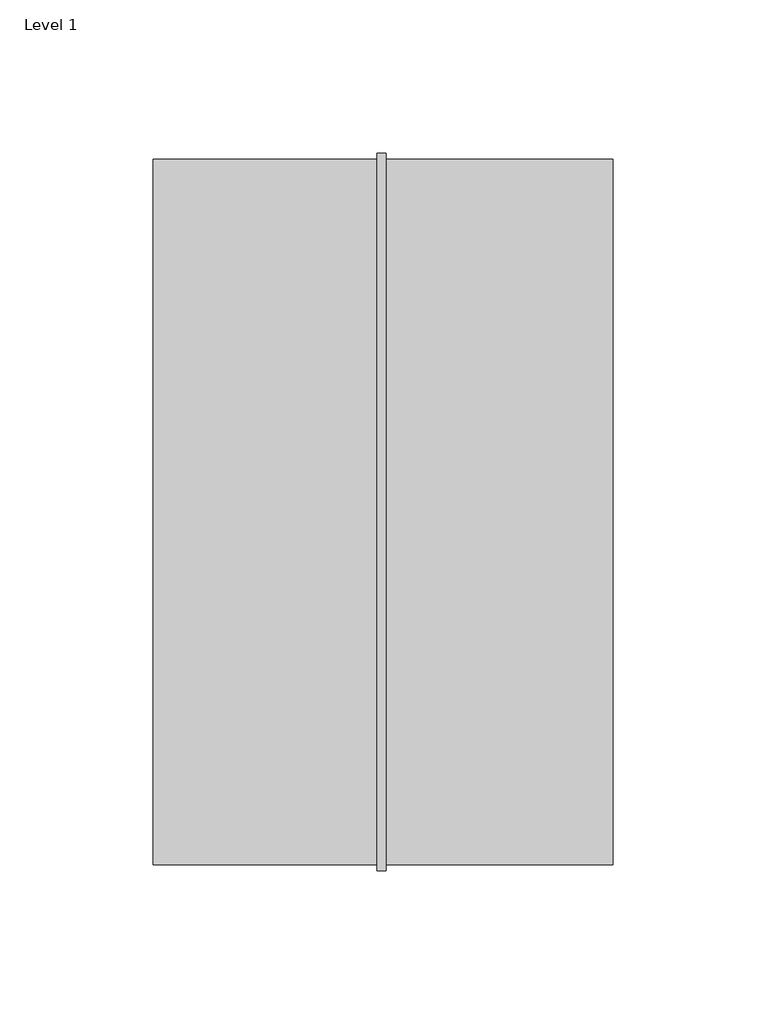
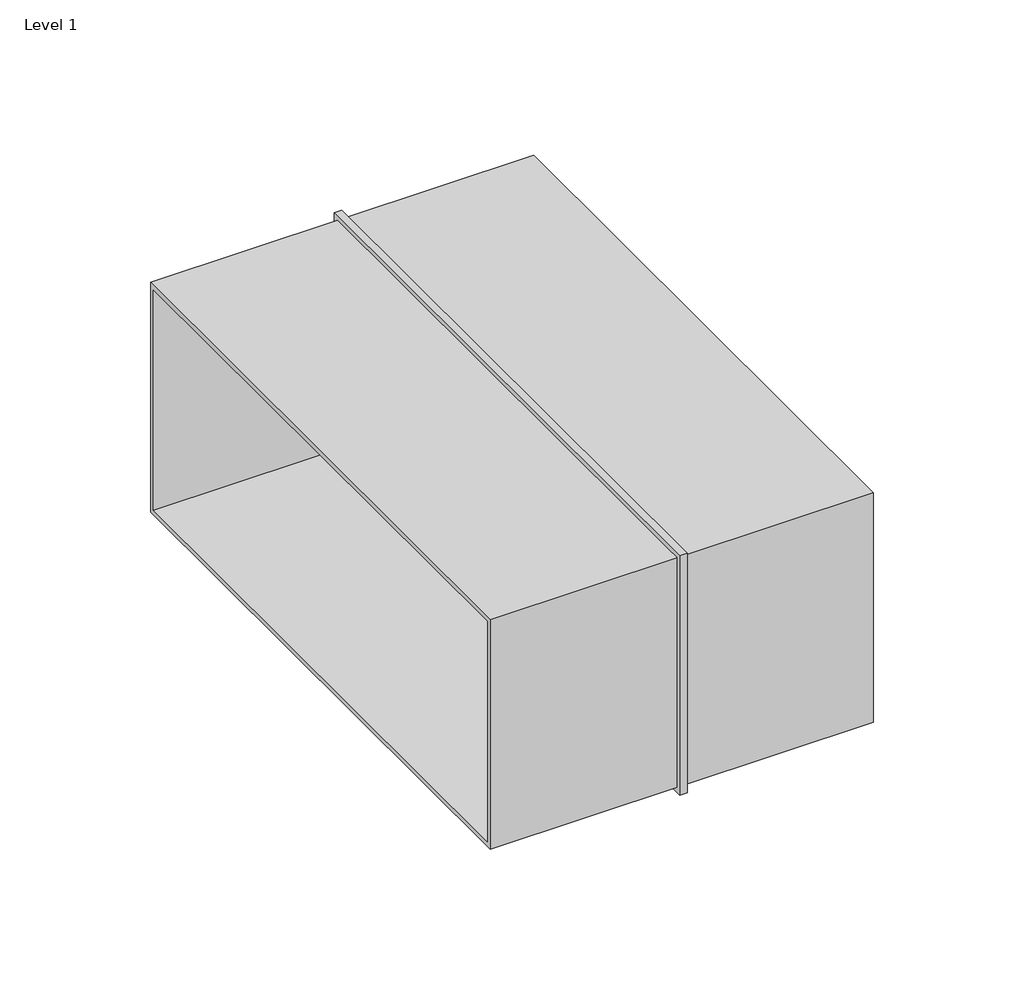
# One storey: 1 proxy.
"""IFC4 building model written with IfcOpenShell, lengths in millimetres."""

import ifcopenshell
import ifcopenshell.guid

model = None  # the IFC model being written
_history = None  # IfcOwnerHistory: only IFC2X3 demands one
_inside = {}  # id of a spatial element -> (the spatial element, [elements in it])
_under = {}  # id of a project, library or spatial element -> (it, [spatial elements below it])
_declared = {}  # id of a project -> (the project, [libraries it declares])
_typed = {}  # id of a type object -> (the type object, [elements of that type])
_made_of = {}  # id of a material, layer set ... -> (it, [elements and type objects made of it])


def new_model(schema):
    """Start an empty IFC model of exactly this schema.

    Asked for "IFC4X3", IfcOpenShell would pick the latest addendum, in which some entities
    have other attributes; the version numbers below select the first issue.
    IFC2X3 requires an IfcOwnerHistory on every rooted entity: one is made here for all.
    """
    global model, _history
    if schema == "IFC4X3":
        model = ifcopenshell.file(schema_version=(4, 3, 0, 0))
    else:
        model = ifcopenshell.file(schema=schema)
    _inside.clear()
    _under.clear()
    _declared.clear()
    _typed.clear()
    _made_of.clear()
    _history = None
    if model.schema == "IFC2X3":
        org = make("IfcOrganization", Name="unknown")
        user = make(
            "IfcPersonAndOrganization",
            ThePerson=make("IfcPerson", FamilyName="unknown"),
            TheOrganization=org,
        )
        app = make(
            "IfcApplication",
            ApplicationDeveloper=org,
            Version="unknown",
            ApplicationFullName="unknown",
            ApplicationIdentifier="unknown",
        )
        _history = make(
            "IfcOwnerHistory",
            OwningUser=user,
            OwningApplication=app,
            ChangeAction="ADDED",
            CreationDate=0,
        )
    return model


def make(cls, **values):
    """One entity of the class cls with the attributes given. An attribute that is None is left unset."""
    return model.create_entity(
        cls, **{name: value for name, value in values.items() if value is not None}
    )


def rooted(cls, **values):
    """An entity with a GlobalId (a new one), such as an element, a storey or a relation."""
    return make(cls, GlobalId=ifcopenshell.guid.new(), OwnerHistory=_history, **values)


def si_unit(unit_type, name, prefix=None):
    """IfcSIUnit, for example si_unit("LENGTHUNIT", "METRE", prefix="MILLI")."""
    return make("IfcSIUnit", UnitType=unit_type, Prefix=prefix, Name=name)


def assignment(units):
    """IfcUnitAssignment: the units of a project."""
    return None if units is None else make("IfcUnitAssignment", Units=units)


def point(xyz):
    """IfcCartesianPoint."""
    return None if xyz is None else make("IfcCartesianPoint", Coordinates=xyz)


def direction(xyz):
    """IfcDirection."""
    return None if xyz is None else make("IfcDirection", DirectionRatios=xyz)


def frame(location, z_axis=None, x_axis=None):
    """IfcAxis2Placement3D, a coordinate frame: its origin and axes. An axis left out is left unset."""
    return make(
        "IfcAxis2Placement3D",
        Location=point(location),
        Axis=direction(z_axis),
        RefDirection=direction(x_axis),
    )


def origin():
    """The frame at (0, 0, 0) with its axes left unset."""
    return frame((0.0, 0.0, 0.0))


def place(relative_to, where):
    """IfcLocalPlacement: puts the frame where relative to a parent placement (None: the world)."""
    return make(
        "IfcLocalPlacement", PlacementRelTo=relative_to, RelativePlacement=where
    )


def context(
    kind, dimensions, precision=None, world=None, true_north=None, identifier=None
):
    """IfcGeometricRepresentationContext, for example the 3D "Model" context."""
    return make(
        "IfcGeometricRepresentationContext",
        ContextIdentifier=identifier,
        ContextType=kind,
        CoordinateSpaceDimension=dimensions,
        Precision=precision,
        WorldCoordinateSystem=world,
        TrueNorth=true_north,
    )


def project(units=None, contexts=None):
    """IfcProject with its units and contexts."""
    return rooted(
        "IfcProject",
        Name="project",
        RepresentationContexts=contexts,
        UnitsInContext=assignment(units),
    )


def spatial(cls, under=None, at=None, **own):
    """A site, building, storey or space (cls), placed at a placement, below another one or the project."""
    s = rooted(cls, ObjectPlacement=at, **own)
    if under is not None:
        _under.setdefault(under.id(), (under, []))[1].append(s)
    return s


def polyline(points):
    """IfcPolyline through the points."""
    return make("IfcPolyline", Points=[point(p) for p in points])


def outline(outer, holes=None, kind="AREA"):
    """IfcArbitraryClosedProfileDef: a profile drawn as a closed curve; with holes, ...WithVoids."""
    if holes is None:
        return make("IfcArbitraryClosedProfileDef", ProfileType=kind, OuterCurve=outer)
    return make(
        "IfcArbitraryProfileDefWithVoids",
        ProfileType=kind,
        OuterCurve=outer,
        InnerCurves=holes,
    )


def extrude(swept, where, along, depth):
    """IfcExtrudedAreaSolid: the profile swept, set in the frame where, extruded along a direction by depth."""
    return make(
        "IfcExtrudedAreaSolid",
        SweptArea=swept,
        Position=where,
        ExtrudedDirection=direction(along),
        Depth=depth,
    )


def shape(context_of_items, identifier, shape_type, items):
    """IfcShapeRepresentation: the items that make up one representation, for example the "Body"."""
    return make(
        "IfcShapeRepresentation",
        ContextOfItems=context_of_items,
        RepresentationIdentifier=identifier,
        RepresentationType=shape_type,
        Items=items,
    )


def source(mapping_origin, context_of_items, identifier, shape_type, items):
    """IfcRepresentationMap: a shape defined once, which mapped items show again and again."""
    return make(
        "IfcRepresentationMap",
        MappingOrigin=mapping_origin,
        MappedRepresentation=shape(context_of_items, identifier, shape_type, items),
    )


def transform(
    local_origin,
    x_axis=None,
    y_axis=None,
    z_axis=None,
    scale=None,
    scale2=None,
    scale3=None,
    uniform=True,
):
    """IfcCartesianTransformationOperator3D, or its non-uniform kind. x_axis, y_axis, z_axis: its Axis1, 2, 3."""
    if uniform:
        return make(
            "IfcCartesianTransformationOperator3D",
            Axis1=direction(x_axis),
            Axis2=direction(y_axis),
            LocalOrigin=point(local_origin),
            Scale=scale,
            Axis3=direction(z_axis),
        )
    return make(
        "IfcCartesianTransformationOperator3DnonUniform",
        Axis1=direction(x_axis),
        Axis2=direction(y_axis),
        LocalOrigin=point(local_origin),
        Scale=scale,
        Axis3=direction(z_axis),
        Scale2=scale2,
        Scale3=scale3,
    )


def mapped(mapping_source, mapping_target):
    """IfcMappedItem: shows the shape of a source again, moved by a transform."""
    return make(
        "IfcMappedItem", MappingSource=mapping_source, MappingTarget=mapping_target
    )


def made_of(thing, what):
    """Note that an element or type object is made of a material, layer set ...; save() writes the relation."""
    if what is not None:
        _made_of.setdefault(what.id(), (what, []))[1].append(thing)
    return thing


def element(
    cls,
    number,
    at=None,
    inside=None,
    cuts=None,
    type_object=None,
    material=None,
    context=None,
    identifier="Body",
    shape_type=None,
    held_by="IfcProductDefinitionShape",
    body=None,
    shapes=None,
    **own,
):
    """One element of the class cls, such as IfcWall. Its Tag is "e" and its number.

    at: its placement. inside: the storey or other place that contains it. cuts: it is an
    opening in that element (IfcRelVoidsElement). A single representation is given by context,
    identifier, shape_type and body (its items); several are given by shapes. held_by: the class
    of the entity that holds the representations. save() writes the other relations.
    """
    e = rooted(cls, Tag="e%d" % number, ObjectPlacement=at, **own)
    if body is not None:
        shapes = [shape(context, identifier, shape_type, body)]
    if shapes is not None:
        e.Representation = make(held_by, Representations=shapes)
    if inside is not None:
        _inside.setdefault(inside.id(), (inside, []))[1].append(e)
    if cuts is not None:
        rooted(
            "IfcRelVoidsElement", RelatingBuildingElement=cuts, RelatedOpeningElement=e
        )
    if type_object is not None:
        _typed.setdefault(type_object.id(), (type_object, []))[1].append(e)
    return made_of(e, material)


def aggregate(whole, parts):
    """IfcRelAggregates: a whole, such as a stair, and the parts it consists of."""
    return rooted("IfcRelAggregates", RelatingObject=whole, RelatedObjects=parts)


def save(model, path):
    """Write the relations noted so far, then the file.

    IfcRelAggregates (storeys below a building ...), IfcRelContainedInSpatialStructure (elements
    in a storey), IfcRelDefinesByType, IfcRelAssociatesMaterial and IfcRelDeclares: one each for
    every whole, place, type object, material and project.
    """
    for whole, parts in _under.values():
        aggregate(whole, parts)
    for where, things in _inside.values():
        rooted(
            "IfcRelContainedInSpatialStructure",
            RelatedElements=things,
            RelatingStructure=where,
        )
    for kind, things in _typed.values():
        rooted("IfcRelDefinesByType", RelatedObjects=things, RelatingType=kind)
    for what, things in _made_of.values():
        rooted("IfcRelAssociatesMaterial", RelatedObjects=things, RelatingMaterial=what)
    for by, libraries in _declared.values():
        rooted("IfcRelDeclares", RelatingContext=by, RelatedDefinitions=libraries)
    model.write(path)


def specialty_equipment_ab32b04e(model_context):
    return source(origin(), model_context, "Body", "SweptSolid", [
        extrude(outline(polyline([(-115.0, 47.5), (115.0, 47.5), (115.0, -47.5), (-115.0, -47.5), (-115.0, 47.5)]), holes=[polyline([(113.0, 45.5), (-113.0, 45.5), (-113.0, -45.5), (113.0, -45.5), (113.0, 45.5)])]), frame((0.0, 0.0, 0.0), z_axis=(1.0, 0.0, 0.0), x_axis=(0.0, 1.0, 0.0)), (0.0, 0.0, 1.0), 150.0),
        extrude(outline(polyline([(-117.0, 49.5), (117.0, 49.5), (117.0, -49.5), (-117.0, -49.5), (-117.0, 49.5)]), holes=[polyline([(115.0, 47.5), (-115.0, 47.5), (-115.0, -47.5), (115.0, -47.5), (115.0, 47.5)])]), frame((73.0, 0.0, 0.0), z_axis=(1.0, 0.0, 0.0), x_axis=(0.0, 1.0, 0.0)), (0.0, 0.0, 1.0), 3.0),
    ])


model = new_model("IFC4")

# Units and contexts
model_context = context("Model", 3, world=origin())
ifc_project = project(units=[si_unit("LENGTHUNIT", "METRE", prefix="MILLI")], contexts=[model_context])

# Site, building, storey
site = spatial("IfcSite", under=ifc_project)
building = spatial("IfcBuilding", under=site)
storey = spatial("IfcBuildingStorey", under=building, Name="Level 1", Elevation=0.0)

# Proxy
placement = place(None, origin())
specialty_equipment_shape = specialty_equipment_ab32b04e(model_context)
element("IfcBuildingElementProxy", 1, Name="11051270_D_DFK-L : 28996399_D_11051270_DFK-L", ObjectType="11051270_D_DFK-L : 28996399_D_11051270_DFK-L", at=placement, inside=storey, context=model_context, shape_type="MappedRepresentation", body=[
    mapped(specialty_equipment_shape, transform((0.0, 0.0, 0.0), x_axis=(1.0, 0.0, 0.0), y_axis=(0.0, 1.0, 0.0), z_axis=(0.0, 0.0, 1.0))),
])

save(model, "model.ifc")
